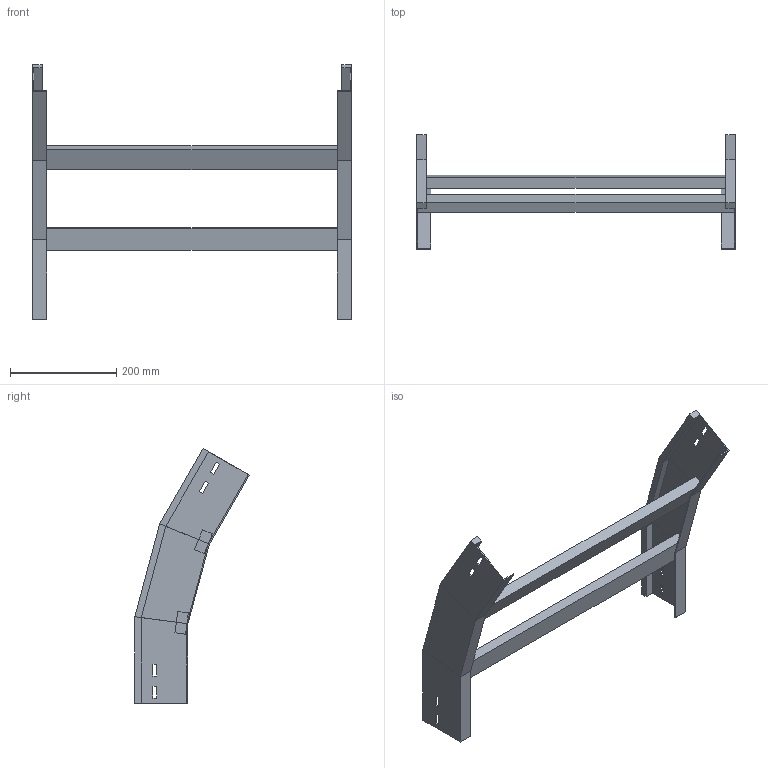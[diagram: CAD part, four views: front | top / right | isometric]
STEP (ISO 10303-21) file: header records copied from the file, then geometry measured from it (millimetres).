
FILE_DESCRIPTION (( 'STEP AP214' ), '1' );
FILE_NAME ('A2_35B3D600.step', '2025-02-21T14:46:23', ( '' ), ( '' ), 'SwSTEP 2.0', 'SolidWorks 2023', '' );
FILE_SCHEMA (( 'AUTOMOTIVE_DESIGN' ));
Length unit declared in the file: millimetre
Products named in the file (3): TRAVERSINO_600; LONGH.DISCESA_30°_H100_R300; A2_35B3D600
Assembly tree (5 placements, depth 2):
  A2_35B3D600
    LONGH.DISCESA_30°_H100_R300  x2
    TRAVERSINO_600  x3
Bounding box: 600 x 215.12 x 479.62 mm (x, y, z)
Volume: 1877629.4 mm3; surface area: 495663.6 mm2
Topology: 5 solids, 5 shells, 102 faces, 244 edges, 152 vertices
Faces by surface type: plane 102
Entity records: 1480 total; most frequent: CARTESIAN_POINT 244, ORIENTED_EDGE 232, DIRECTION 228, EDGE_CURVE 116, VECTOR 116, LINE 116, VERTEX_POINT 72, EDGE_LOOP 56
